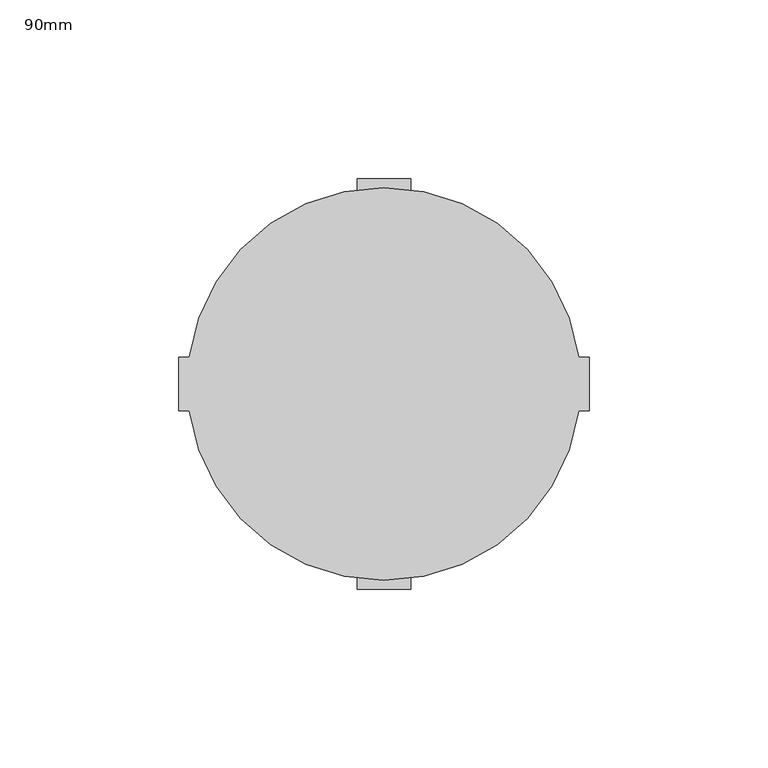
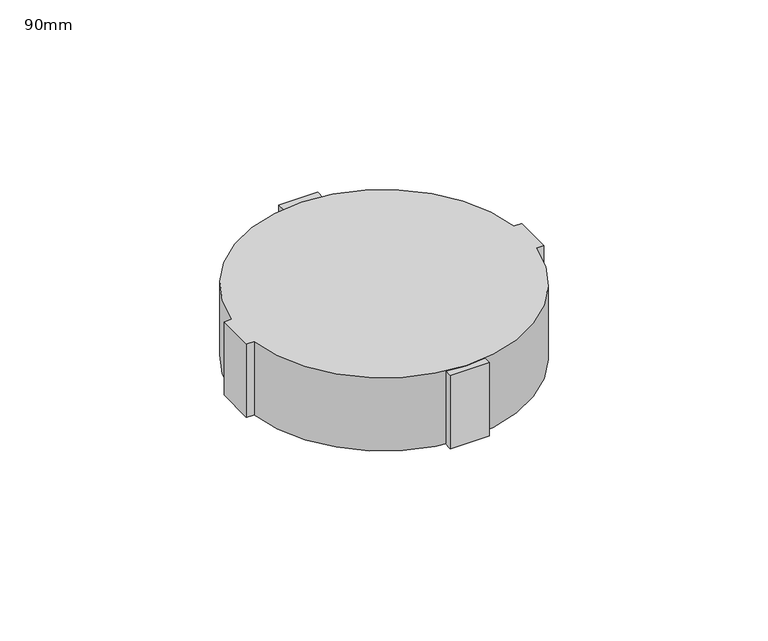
"""IFC4 building model written with IfcOpenShell, lengths in millimetres: pipe fitting geometry, AmancoWavin_Accesoriosdetubería_AS+_Abrazadera : 90mm."""

from ifc_helpers import new_model, si_unit, point, frame, origin, origin_2d, place, context, project, spatial, polyline, circle_curve, trimmed, segment, composite_curve, outline, extrude, source, transform, mapped, element, save


def pipe_fitting_90mm_3d6ca8c2(model_context):
    return source(origin(), model_context, "Body", "SweptSolid", [
        extrude(outline(composite_curve([segment(polyline([(57.5, -7.5), (54.4862368, -7.5)]), True, "CONTINUOUS"), segment(trimmed(circle_curve(origin_2d(), 55.0), [point((54.4862368, -7.5))], [point((-54.4862368, -7.5))], False, "CARTESIAN"), True, "CONTINUOUS"), segment(polyline([(-54.4862368, -7.5), (-57.5, -7.5), (-57.5, 7.5), (-54.4862368, 7.5)]), True, "CONTINUOUS"), segment(trimmed(circle_curve(origin_2d(), 55.0), [point((-54.4862368, 7.5))], [point((54.4862368, 7.5))], False, "CARTESIAN"), True, "CONTINUOUS"), segment(polyline([(54.4862368, 7.5), (57.5, 7.5), (57.5, -7.5)]), True, "CONTINUOUS")], self_intersect=False)), frame((0.0, 0.0, -15.0), z_axis=(0.0, 0.0, 1.0), x_axis=(1.0, 0.0, 0.0)), (0.0, 0.0, 1.0), 30.0),
        extrude(outline(polyline([(-7.5, -57.5), (-7.5, -53.5), (7.5, -53.5), (7.5, -57.5), (-7.5, -57.5)])), frame((0.0, 0.0, -15.0), z_axis=(0.0, 0.0, 1.0), x_axis=(1.0, 0.0, 0.0)), (0.0, 0.0, 1.0), 30.0),
        extrude(outline(polyline([(-7.5, 57.5), (7.5, 57.5), (7.5, 53.5), (-7.5, 53.5), (-7.5, 57.5)])), frame((0.0, 0.0, -15.0), z_axis=(0.0, 0.0, 1.0), x_axis=(1.0, 0.0, 0.0)), (0.0, 0.0, 1.0), 30.0),
    ])


if __name__ == "__main__":
    model = new_model("IFC4")
    model_context = context("Model", 3, world=origin())
    ifc_project = project(units=[si_unit("LENGTHUNIT", "METRE", prefix="MILLI")], contexts=[model_context])
    site = spatial("IfcSite", under=ifc_project)
    building = spatial("IfcBuilding", under=site)
    placement = place(None, origin())
    pipe_fitting_90mm_shape = pipe_fitting_90mm_3d6ca8c2(model_context)
    element("IfcPipeFitting", 1, ObjectType="AmancoWavin_Accesoriosdetubería_AS+_Abrazadera : 90mm", at=placement, inside=building, context=model_context, shape_type="MappedRepresentation", body=[
        mapped(pipe_fitting_90mm_shape, transform((0.0, 0.0, 0.0), x_axis=(1.0, 0.0, 0.0), y_axis=(0.0, 1.0, 0.0), z_axis=(0.0, 0.0, 1.0))),
    ])
    save(model, "model.ifc")
